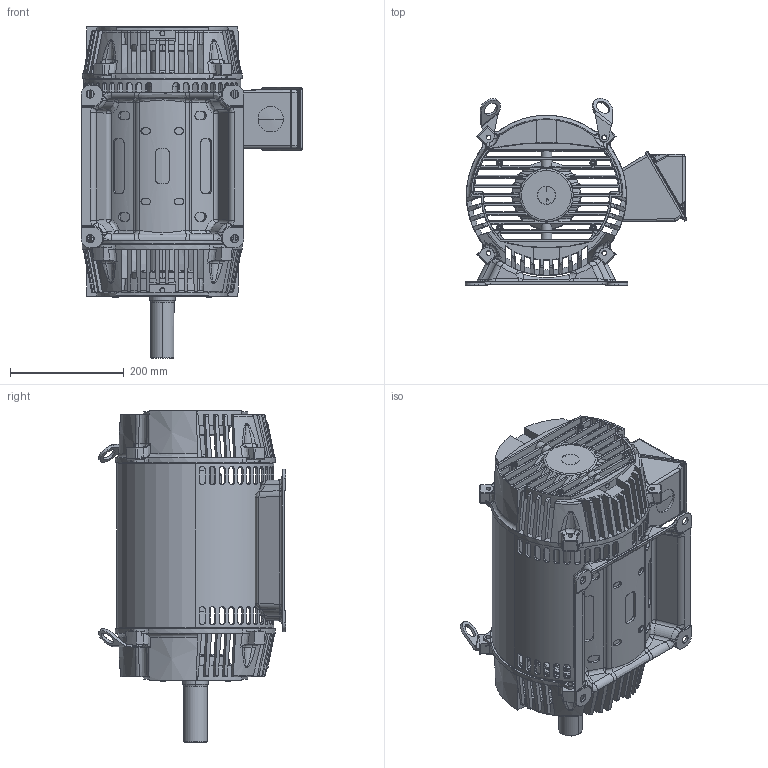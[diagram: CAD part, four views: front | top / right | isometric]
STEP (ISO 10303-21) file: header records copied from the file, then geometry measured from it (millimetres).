
FILE_DESCRIPTION((''),'2;1');
FILE_NAME('DR62_ASM','2014-08-01T',('NMC779F'),('Nidec Motor Corporation'),'PRO/ENGINEER BY PARAMETRIC TECHNOLOGY CORPORATION, 2013150','PRO/ENGINEER BY PARAMETRIC TECHNOLOGY CORPORATION, 2013150','');
FILE_SCHEMA(('CONFIG_CONTROL_DESIGN'));
Length unit declared in the file: inch
Products named in the file (14): 254_FRAME; 0373637-BKT_AF0; 0362224_AF0; 0373638_ASM; 0374772-BKT_AF0; 0360239_AF0; 0374773_ASM; 0172877; 0931021; 0364229-OBB; 0364236; 0369733; 0380720; DR62_ASM
Assembly tree (14 placements, depth 3):
  DR62_ASM
    254_FRAME
    0373638_ASM
      0373637-BKT_AF0
      0362224_AF0
    0374773_ASM
      0374772-BKT_AF0
      0360239_AF0
    0172877
    0931021
    0364229-OBB
    0364236
    0369733  x2
    0380720
Bounding box: 389.86 x 328.52 x 583.23 mm (x, y, z)
Volume: 4515293.8 mm3; surface area: 1630714.8 mm2
Topology: 14 solids, 14 shells, 3095 faces, 8368 edges, 5167 vertices
Faces by surface type: plane 860, bspline 824, cylinder 642, cone 391, torus 264, sphere 114
Entity records: 135286 total; most frequent: CARTESIAN_POINT 65155, ORIENTED_EDGE 16636, DIRECTION 12194, EDGE_CURVE 8318, VERTEX_POINT 5143, AXIS2_PLACEMENT_3D 4951, B_SPLINE_CURVE_WITH_KNOTS 3362, EDGE_LOOP 3301
